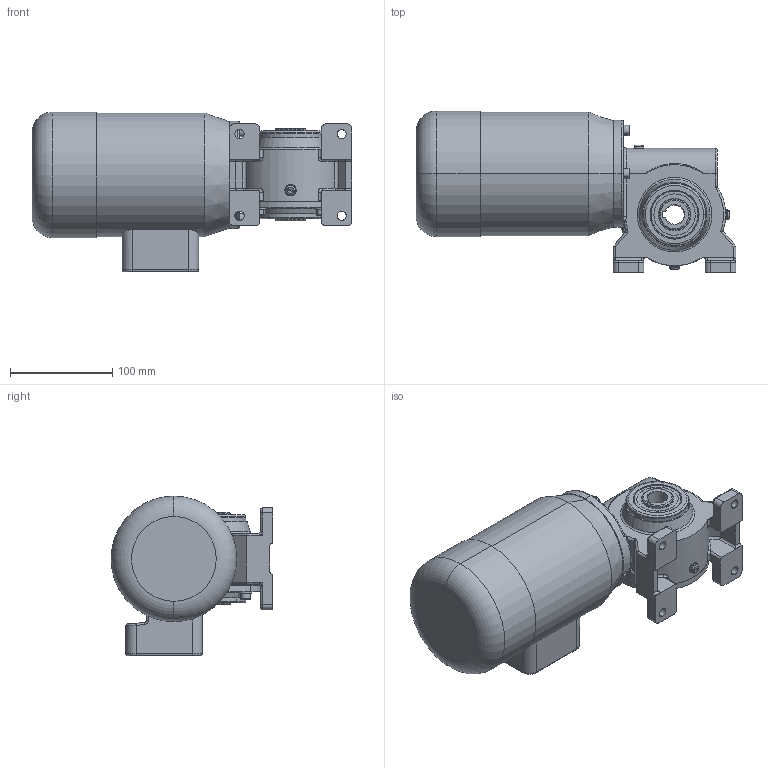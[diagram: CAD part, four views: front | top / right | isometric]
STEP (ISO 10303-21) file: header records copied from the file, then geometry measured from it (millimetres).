
FILE_DESCRIPTION (( 'STEP AP214' ), '1' );
FILE_NAME ('SN9SHH_120W_Drehstrom-Motor_A.STEP', '2021-05-10T10:12:07', ( '' ), ( '' ), 'SwSTEP 2.0', 'SolidWorks 2019', '' );
FILE_SCHEMA (( 'AUTOMOTIVE_DESIGN' ));
Length unit declared in the file: millimetre
Products named in the file (1): SN9SHH_120W_Drehstrom-Motor_A
Bounding box: 313 x 158.5 x 156.5 mm (x, y, z)
Surface area: 196161.5 mm2 (no closed solid volume)
Topology: 0 solids, 27 shells, 465 faces, 1249 edges, 779 vertices
Faces by surface type: cylinder 165, plane 154, torus 71, cone 47, bspline 24, sphere 4
Entity records: 21374 total; most frequent: CARTESIAN_POINT 4762, DIRECTION 2564, ORIENTED_EDGE 2197, EDGE_CURVE 1217, AXIS2_PLACEMENT_3D 1028, VERTEX_POINT 775, CIRCLE 586, EDGE_LOOP 531
